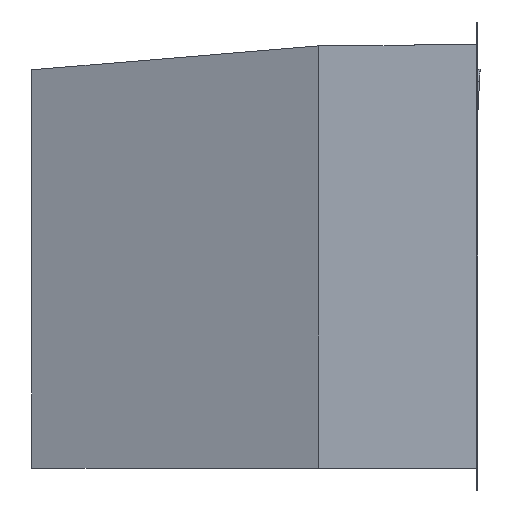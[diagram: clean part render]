
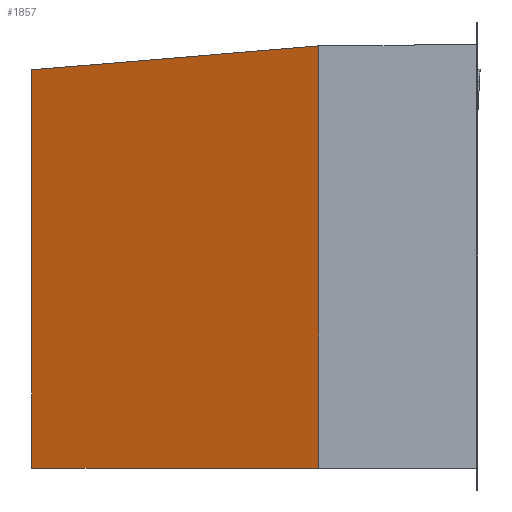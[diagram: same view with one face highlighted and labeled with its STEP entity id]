
A CAD part, left-side view. The second image highlights one B-rep face of the part: STEP entity #1857.
In plain terms, the highlighted planar face has unit normal (-0.94, 0.342, 0).
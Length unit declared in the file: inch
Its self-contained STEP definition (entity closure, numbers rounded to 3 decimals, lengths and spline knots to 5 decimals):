
#367=DIRECTION('',(-0.342,-0.94,0.));
#368=VECTOR('',#367,9.57772);
#369=CARTESIAN_POINT('',(-13.91141,14.,0.));
#370=LINE('',#369,#368);
#388=DIRECTION('',(0.,0.,1.));
#389=VECTOR('',#388,12.5);
#390=CARTESIAN_POINT('',(-13.91141,14.,0.));
#391=LINE('',#390,#389);
#409=DIRECTION('',(-0.341,-0.937,0.078));
#410=VECTOR('',#409,9.60704);
#411=CARTESIAN_POINT('',(-13.91141,14.,12.5));
#412=LINE('',#411,#410);
#458=DIRECTION('',(0.,0.,1.));
#459=VECTOR('',#458,13.25);
#460=CARTESIAN_POINT('',(-17.1875,5.,0.));
#461=LINE('',#460,#459);
#1605=CARTESIAN_POINT('',(-13.91141,14.,0.));
#1606=CARTESIAN_POINT('',(-17.1875,5.,0.));
#1607=VERTEX_POINT('',#1605);
#1608=VERTEX_POINT('',#1606);
#1609=CARTESIAN_POINT('',(-13.91141,14.,12.5));
#1610=VERTEX_POINT('',#1609);
#1611=CARTESIAN_POINT('',(-17.1875,5.,13.25));
#1612=VERTEX_POINT('',#1611);
#1846=CARTESIAN_POINT('',(-13.91141,14.,0.));
#1847=DIRECTION('',(-0.94,0.342,0.));
#1848=DIRECTION('',(-0.342,-0.94,0.));
#1849=AXIS2_PLACEMENT_3D('',#1846,#1847,#1848);
#1850=PLANE('',#1849);
#1851=ORIENTED_EDGE('',*,*,#1745,.F.);
#1852=ORIENTED_EDGE('',*,*,#1764,.T.);
#1853=ORIENTED_EDGE('',*,*,#1779,.T.);
#1854=ORIENTED_EDGE('',*,*,#1836,.F.);
#1855=EDGE_LOOP('',(#1851,#1852,#1853,#1854));
#1856=FACE_OUTER_BOUND('',#1855,.F.);
#1857=ADVANCED_FACE('',(#1856),#1850,.T.);
#1745=EDGE_CURVE('',#1607,#1608,#370,.T.);
#1764=EDGE_CURVE('',#1607,#1610,#391,.T.);
#1779=EDGE_CURVE('',#1610,#1612,#412,.T.);
#1836=EDGE_CURVE('',#1608,#1612,#461,.T.);
